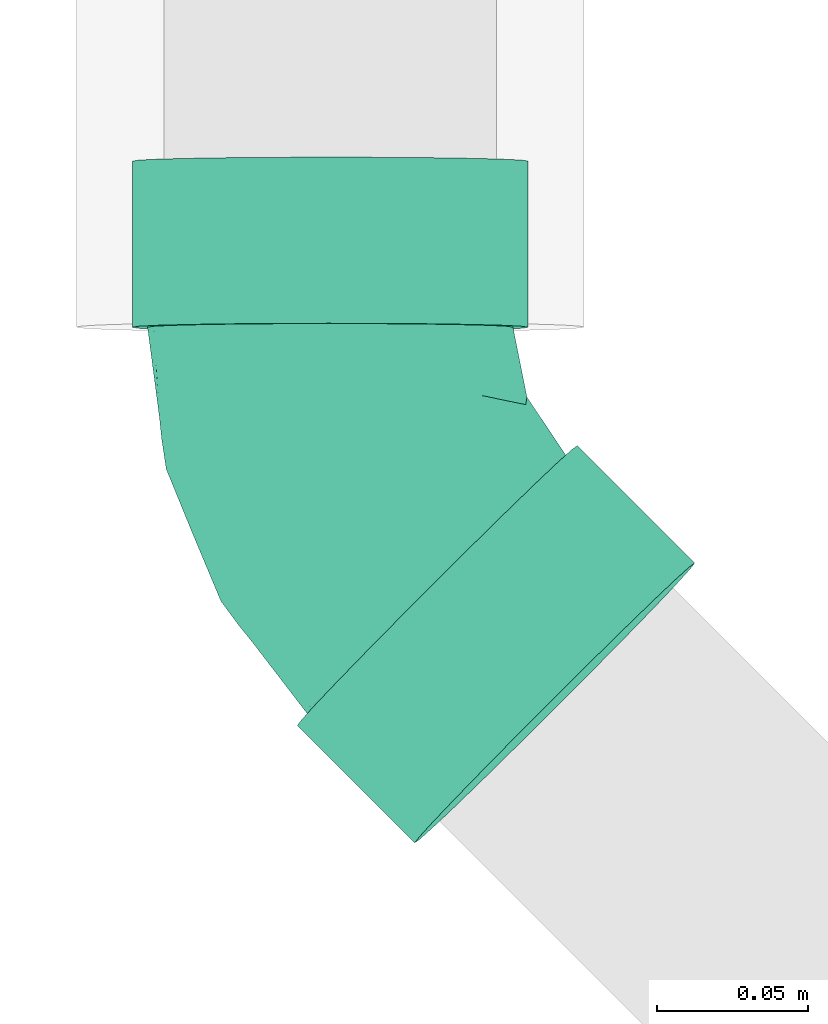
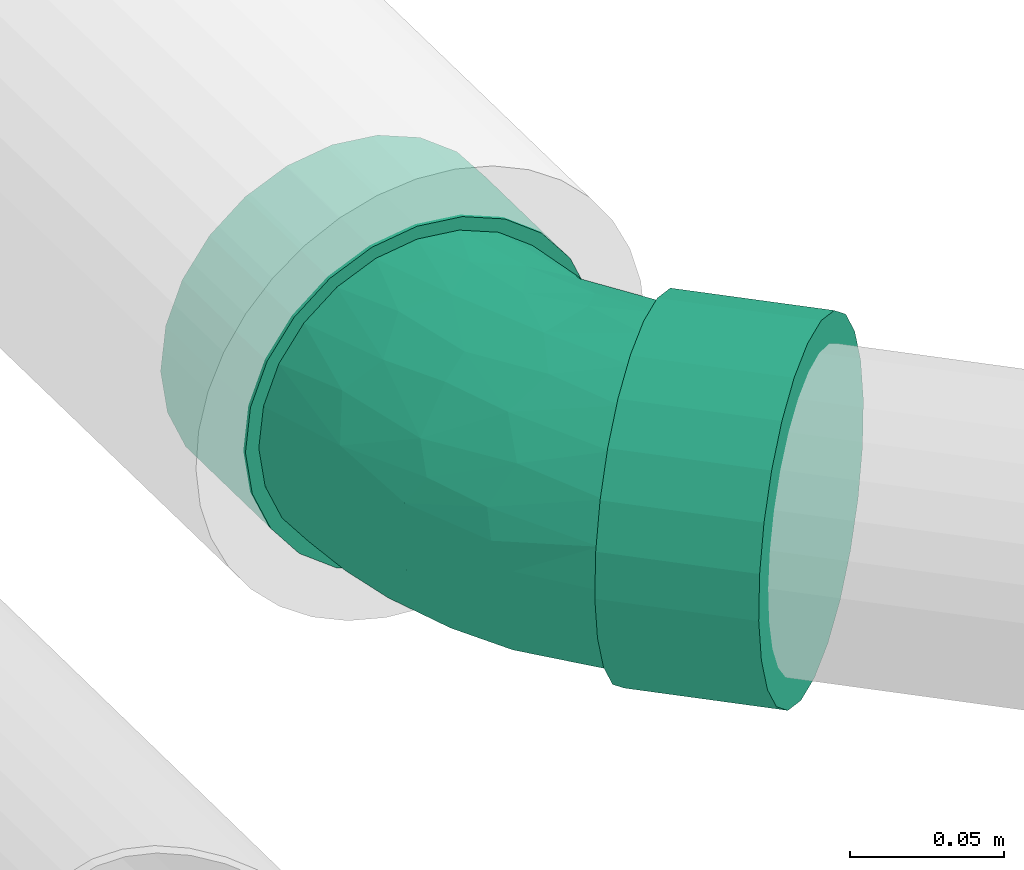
# One storey, part 58 of 83: 1 flow fitting.
"""IFC2X3 building model written with IfcOpenShell, lengths in millimetres."""

import ifcopenshell
import ifcopenshell.guid

model = None  # the IFC model being written
_history = None  # IfcOwnerHistory: only IFC2X3 demands one
_inside = {}  # id of a spatial element -> (the spatial element, [elements in it])
_under = {}  # id of a project, library or spatial element -> (it, [spatial elements below it])
_declared = {}  # id of a project -> (the project, [libraries it declares])
_typed = {}  # id of a type object -> (the type object, [elements of that type])
_made_of = {}  # id of a material, layer set ... -> (it, [elements and type objects made of it])


def new_model(schema):
    """Start an empty IFC model of exactly this schema.

    Asked for "IFC4X3", IfcOpenShell would pick the latest addendum, in which some entities
    have other attributes; the version numbers below select the first issue.
    IFC2X3 requires an IfcOwnerHistory on every rooted entity: one is made here for all.
    """
    global model, _history
    if schema == "IFC4X3":
        model = ifcopenshell.file(schema_version=(4, 3, 0, 0))
    else:
        model = ifcopenshell.file(schema=schema)
    _inside.clear()
    _under.clear()
    _declared.clear()
    _typed.clear()
    _made_of.clear()
    _history = None
    if model.schema == "IFC2X3":
        org = make("IfcOrganization", Name="unknown")
        user = make(
            "IfcPersonAndOrganization",
            ThePerson=make("IfcPerson", FamilyName="unknown"),
            TheOrganization=org,
        )
        app = make(
            "IfcApplication",
            ApplicationDeveloper=org,
            Version="unknown",
            ApplicationFullName="unknown",
            ApplicationIdentifier="unknown",
        )
        _history = make(
            "IfcOwnerHistory",
            OwningUser=user,
            OwningApplication=app,
            ChangeAction="ADDED",
            CreationDate=0,
        )
    return model


def make(cls, **values):
    """One entity of the class cls with the attributes given. An attribute that is None is left unset."""
    return model.create_entity(
        cls, **{name: value for name, value in values.items() if value is not None}
    )


def entity(cls, *values):
    """Any entity or typed value of the class cls, its attributes in the order of the schema. None: left unset."""
    e = model.create_entity(cls)
    for i, value in enumerate(values):
        if value is not None:
            e[i] = value
    return e


def rooted(cls, **values):
    """An entity with a GlobalId (a new one), such as an element, a storey or a relation."""
    return make(cls, GlobalId=ifcopenshell.guid.new(), OwnerHistory=_history, **values)


def si_unit(unit_type, name, prefix=None):
    """IfcSIUnit, for example si_unit("LENGTHUNIT", "METRE", prefix="MILLI")."""
    return make("IfcSIUnit", UnitType=unit_type, Prefix=prefix, Name=name)


def converted_unit(unit_type, name, factor, base, dimensions=None, offset=None):
    """IfcConversionBasedUnit, such as the inch: factor (a typed value) times the base unit."""
    return make(
        "IfcConversionBasedUnit"
        if offset is None
        else "IfcConversionBasedUnitWithOffset",
        ConversionOffset=offset,
        Dimensions=None
        if dimensions is None
        else entity("IfcDimensionalExponents", *dimensions),
        UnitType=unit_type,
        Name=name,
        ConversionFactor=make(
            "IfcMeasureWithUnit", ValueComponent=factor, UnitComponent=base
        ),
    )


def derived_unit(unit_type, elements):
    """IfcDerivedUnit: a product of units, each with its exponent."""
    return make(
        "IfcDerivedUnit",
        Elements=[
            make("IfcDerivedUnitElement", Unit=unit, Exponent=power)
            for unit, power in elements
        ],
        UnitType=unit_type,
    )


def assignment(units):
    """IfcUnitAssignment: the units of a project."""
    return None if units is None else make("IfcUnitAssignment", Units=units)


def point(xyz):
    """IfcCartesianPoint."""
    return None if xyz is None else make("IfcCartesianPoint", Coordinates=xyz)


def direction(xyz):
    """IfcDirection."""
    return None if xyz is None else make("IfcDirection", DirectionRatios=xyz)


def frame(location, z_axis=None, x_axis=None):
    """IfcAxis2Placement3D, a coordinate frame: its origin and axes. An axis left out is left unset."""
    return make(
        "IfcAxis2Placement3D",
        Location=point(location),
        Axis=direction(z_axis),
        RefDirection=direction(x_axis),
    )


def origin_with_axes():
    """The frame at (0, 0, 0) with the z axis (0, 0, 1) and the x axis (1, 0, 0) written out."""
    return frame((0.0, 0.0, 0.0), z_axis=(0.0, 0.0, 1.0), x_axis=(1.0, 0.0, 0.0))


def place(relative_to, where):
    """IfcLocalPlacement: puts the frame where relative to a parent placement (None: the world)."""
    return make(
        "IfcLocalPlacement", PlacementRelTo=relative_to, RelativePlacement=where
    )


def context(
    kind, dimensions, precision=None, world=None, true_north=None, identifier=None
):
    """IfcGeometricRepresentationContext, for example the 3D "Model" context."""
    return make(
        "IfcGeometricRepresentationContext",
        ContextIdentifier=identifier,
        ContextType=kind,
        CoordinateSpaceDimension=dimensions,
        Precision=precision,
        WorldCoordinateSystem=world,
        TrueNorth=true_north,
    )


def subcontext(parent, identifier, kind, view, scale=None):
    """IfcGeometricRepresentationSubContext, for example "Body" below "Model"."""
    return make(
        "IfcGeometricRepresentationSubContext",
        ContextIdentifier=identifier,
        ContextType=kind,
        ParentContext=parent,
        TargetScale=scale,
        TargetView=view,
    )


def project(units=None, contexts=None):
    """IfcProject with its units and contexts."""
    return rooted(
        "IfcProject",
        Name="project",
        RepresentationContexts=contexts,
        UnitsInContext=assignment(units),
    )


def spatial(cls, under=None, at=None, **own):
    """A site, building, storey or space (cls), placed at a placement, below another one or the project."""
    s = rooted(cls, ObjectPlacement=at, **own)
    if under is not None:
        _under.setdefault(under.id(), (under, []))[1].append(s)
    return s


def faces_of(points, faces, orient=None, outer=None):
    """IfcFace entities. A face is a list of loops; a loop is a list of indices into points, from 0.

    orient and outer hold one flag for each loop. By default every Orientation is true, the
    first loop of a face is its IfcFaceOuterBound and the others are IfcFaceBound.
    """
    made = []
    for i, loops in enumerate(faces):
        bounds = []
        for j, loop in enumerate(loops):
            is_outer = j == 0 if outer is None else outer[i][j]
            bounds.append(
                make(
                    "IfcFaceOuterBound" if is_outer else "IfcFaceBound",
                    Bound=make("IfcPolyLoop", Polygon=[points[k] for k in loop]),
                    Orientation=True if orient is None else orient[i][j],
                )
            )
        made.append(make("IfcFace", Bounds=bounds))
    return made


def open_shell(faces, orient=None, outer=None):
    """The faces of one IfcOpenShell. surface_model builds it on its shared points."""
    return ("IfcOpenShell", faces, orient, outer)


def surface_model(cls, points, shells):
    """IfcFaceBasedSurfaceModel or IfcShellBasedSurfaceModel (cls): surfaces that need not close."""
    shared = [point(p) for p in points]
    made = [make(c, CfsFaces=faces_of(shared, fs, o, b)) for c, fs, o, b in shells]
    if cls == "IfcFaceBasedSurfaceModel":
        return make(cls, FbsmFaces=made)
    return make(cls, SbsmBoundary=made)


def shape(context_of_items, identifier, shape_type, items):
    """IfcShapeRepresentation: the items that make up one representation, for example the "Body"."""
    return make(
        "IfcShapeRepresentation",
        ContextOfItems=context_of_items,
        RepresentationIdentifier=identifier,
        RepresentationType=shape_type,
        Items=items,
    )


def source(mapping_origin, context_of_items, identifier, shape_type, items):
    """IfcRepresentationMap: a shape defined once, which mapped items show again and again."""
    return make(
        "IfcRepresentationMap",
        MappingOrigin=mapping_origin,
        MappedRepresentation=shape(context_of_items, identifier, shape_type, items),
    )


def transform(
    local_origin,
    x_axis=None,
    y_axis=None,
    z_axis=None,
    scale=None,
    scale2=None,
    scale3=None,
    uniform=True,
):
    """IfcCartesianTransformationOperator3D, or its non-uniform kind. x_axis, y_axis, z_axis: its Axis1, 2, 3."""
    if uniform:
        return make(
            "IfcCartesianTransformationOperator3D",
            Axis1=direction(x_axis),
            Axis2=direction(y_axis),
            LocalOrigin=point(local_origin),
            Scale=scale,
            Axis3=direction(z_axis),
        )
    return make(
        "IfcCartesianTransformationOperator3DnonUniform",
        Axis1=direction(x_axis),
        Axis2=direction(y_axis),
        LocalOrigin=point(local_origin),
        Scale=scale,
        Axis3=direction(z_axis),
        Scale2=scale2,
        Scale3=scale3,
    )


def mapped(mapping_source, mapping_target):
    """IfcMappedItem: shows the shape of a source again, moved by a transform."""
    return make(
        "IfcMappedItem", MappingSource=mapping_source, MappingTarget=mapping_target
    )


def made_of(thing, what):
    """Note that an element or type object is made of a material, layer set ...; save() writes the relation."""
    if what is not None:
        _made_of.setdefault(what.id(), (what, []))[1].append(thing)
    return thing


def type_object(cls, material=None, **own):
    """A type object (cls), such as IfcWallType, which elements share."""
    return made_of(rooted(cls, **own), material)


def element(
    cls,
    number,
    at=None,
    inside=None,
    cuts=None,
    type_object=None,
    material=None,
    context=None,
    identifier="Body",
    shape_type=None,
    held_by="IfcProductDefinitionShape",
    body=None,
    shapes=None,
    **own,
):
    """One element of the class cls, such as IfcWall. Its Tag is "e" and its number.

    at: its placement. inside: the storey or other place that contains it. cuts: it is an
    opening in that element (IfcRelVoidsElement). A single representation is given by context,
    identifier, shape_type and body (its items); several are given by shapes. held_by: the class
    of the entity that holds the representations. save() writes the other relations.
    """
    e = rooted(cls, Tag="e%d" % number, ObjectPlacement=at, **own)
    if body is not None:
        shapes = [shape(context, identifier, shape_type, body)]
    if shapes is not None:
        e.Representation = make(held_by, Representations=shapes)
    if inside is not None:
        _inside.setdefault(inside.id(), (inside, []))[1].append(e)
    if cuts is not None:
        rooted(
            "IfcRelVoidsElement", RelatingBuildingElement=cuts, RelatedOpeningElement=e
        )
    if type_object is not None:
        _typed.setdefault(type_object.id(), (type_object, []))[1].append(e)
    return made_of(e, material)


def aggregate(whole, parts):
    """IfcRelAggregates: a whole, such as a stair, and the parts it consists of."""
    return rooted("IfcRelAggregates", RelatingObject=whole, RelatedObjects=parts)


def save(model, path):
    """Write the relations noted so far, then the file.

    IfcRelAggregates (storeys below a building ...), IfcRelContainedInSpatialStructure (elements
    in a storey), IfcRelDefinesByType, IfcRelAssociatesMaterial and IfcRelDeclares: one each for
    every whole, place, type object, material and project.
    """
    for whole, parts in _under.values():
        aggregate(whole, parts)
    for where, things in _inside.values():
        rooted(
            "IfcRelContainedInSpatialStructure",
            RelatedElements=things,
            RelatingStructure=where,
        )
    for kind, things in _typed.values():
        rooted("IfcRelDefinesByType", RelatedObjects=things, RelatingType=kind)
    for what, things in _made_of.values():
        rooted("IfcRelAssociatesMaterial", RelatedObjects=things, RelatingMaterial=what)
    for by, libraries in _declared.values():
        rooted("IfcRelDeclares", RelatingContext=by, RelatedDefinitions=libraries)
    model.write(path)


model = new_model("IFC2X3")

# Units and contexts
model_context = context("Model", 3, precision=0.01, world=frame((0.0, 4.29681676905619e-09, 0.0)), true_north=direction((4.01073788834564e-13, 1.0)))
plan_context = context("Plan", 3, precision=0.01, world=frame((0.0, 4.29681676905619e-09, 0.0)), true_north=direction((4.01073788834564e-13, 1.0)))
body_context = subcontext(model_context, "Body", "Model", "MODEL_VIEW")
ifc_project = project(units=[converted_unit("PLANEANGLEUNIT", "DEGREE", entity("IfcPositiveLengthMeasure", 0.0174532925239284), si_unit("PLANEANGLEUNIT", "RADIAN"), dimensions=[0, 0, 0, 0, 0, 0, 0]), si_unit("AREAUNIT", "SQUARE_METRE"), si_unit("LENGTHUNIT", "METRE", prefix="MILLI"), si_unit("MASSUNIT", "GRAM", prefix="KILO"), si_unit("POWERUNIT", "WATT"), si_unit("PRESSUREUNIT", "PASCAL"), si_unit("FORCEUNIT", "NEWTON", prefix="KILO"), si_unit("ELECTRICVOLTAGEUNIT", "VOLT"), si_unit("ELECTRICCURRENTUNIT", "AMPERE"), si_unit("THERMODYNAMICTEMPERATUREUNIT", "DEGREE_CELSIUS"), si_unit("TIMEUNIT", "SECOND"), si_unit("VOLUMEUNIT", "CUBIC_METRE"), derived_unit("LINEARVELOCITYUNIT", [(si_unit("LENGTHUNIT", "METRE"), 1), (si_unit("TIMEUNIT", "SECOND"), -1)]), derived_unit("VOLUMETRICFLOWRATEUNIT", [(si_unit("VOLUMEUNIT", "CUBIC_METRE"), 1), (si_unit("TIMEUNIT", "SECOND"), -1)]), derived_unit("THERMALTRANSMITTANCEUNIT", [(si_unit("POWERUNIT", "WATT"), 1), (si_unit("THERMODYNAMICTEMPERATUREUNIT", "KELVIN"), -1), (si_unit("AREAUNIT", "SQUARE_METRE"), -1)]), derived_unit("SOUNDPRESSUREUNIT", [(si_unit("PRESSUREUNIT", "PASCAL"), 1)])], contexts=[model_context, plan_context])

# Site, building, storey
site_placement = place(None, frame((0.0, -4.29681676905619e-09, 0.0), z_axis=(0.0, 0.0, 1.0), x_axis=(1.0, 0.0, 0.0)))
site = spatial("IfcSite", under=ifc_project, at=site_placement, Name="ENGM", CompositionType="ELEMENT")
building_placement = place(site_placement, frame((0.0, 4.29681676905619e-09, 0.0), z_axis=(0.0, 0.0, 1.0), x_axis=(1.0, 0.0, 0.0)))
building = spatial("IfcBuilding", under=site, at=building_placement, Name="TI", CompositionType="ELEMENT")
storey_placement = place(building_placement, frame((0.0, 0.0, 204000.0), z_axis=(0.0, 0.0, 1.0), x_axis=(1.0, 0.0, 0.0)))
storey = spatial("IfcBuildingStorey", under=building, at=storey_placement, Name="Nivå D", CompositionType="ELEMENT", Elevation=204000.0)

# Flow fitting
pipe_fitting_type = type_object("IfcPipeFittingType", Name="magi_sewer_bend_001", PredefinedType="BEND")
shared_shape = source(origin_with_axes(), body_context, "Body", "SurfaceModel", [
    surface_model("IfcShellBasedSurfaceModel", [(-105.1081, -16.95265, -63.26814), (-105.1081, -32.75, -56.72466), (-105.1081, -46.3155, -46.3155), (-105.1081, -63.26814, -16.95265), (-105.1081, 56.72466, -32.75), (-105.1081, -56.72466, -32.75), (-105.1081, -65.5, 0.0), (-105.1081, 16.95265, -63.26814), (-105.1081, 0.0, -65.5), (-105.1081, 32.75, -56.72466), (-105.1081, 46.3155, -46.3155), (-105.1081, 63.26814, -16.95265), (-105.1081, -63.26814, 16.95265), (-105.1081, -56.72466, 32.75), (-105.1081, -46.3155, 46.3155), (-105.1081, 63.26814, 16.95265), (-105.1081, -16.95265, 63.26814), (-105.1081, 0.0, 65.5), (-105.1081, -32.75, 56.72466), (-105.1081, 46.3155, 46.3155), (-105.1081, 56.72466, 32.75), (-105.1081, 65.5, 0.0), (-105.1081, 16.95265, 63.26814), (-105.1081, 32.75, 56.72466), (-50.1081, -16.95265, 63.26814), (-50.1081, 16.95265, 63.26814), (-50.1081, 0.0, 65.5), (-50.1081, -46.3155, 46.3155), (-50.1081, -32.75, 56.72466), (-50.1081, -56.72466, 32.75), (-50.1081, -63.26814, 16.95265), (-50.1081, 46.3155, 46.3155), (-50.1081, 32.75, 56.72466), (-50.1081, 63.26814, 16.95265), (-50.1081, 56.72466, 32.75), (-50.1081, 63.26814, -16.95265), (-50.1081, 65.5, 0.0), (-50.1081, -63.26814, -16.95265), (-50.1081, 32.75, -56.72466), (-50.1081, -65.5, 0.0), (-50.1081, -16.95265, -63.26814), (-50.1081, -56.72466, -32.75), (-50.1081, -46.3155, -46.3155), (-50.1081, -32.75, -56.72466), (-50.1081, 0.0, -65.5), (-50.1081, 46.3155, -46.3155), (-50.1081, 56.72466, -32.75), (-50.1081, 16.95265, -63.26814), (29.60504, 119.05508, 16.95265), (34.23121, 114.42738, 32.75), (41.59038, 107.06577, 46.3155), (86.3203, 62.32102, 63.26814), (97.48887, 51.14876, 56.72466), (107.07954, 41.55492, 46.3155), (86.3203, 62.32102, -63.26814), (107.07954, 41.55492, -46.3155), (97.48887, 51.14876, -56.72466), (68.18222, 2.67049, 46.3155), (58.59156, 12.26433, 56.72466), (47.42299, 23.43659, 63.26814), (68.18222, 2.67049, -46.3155), (47.42299, 23.43659, -63.26814), (58.59156, 12.26433, -56.72466), (2.69307, 68.18134, 46.3155), (-4.6661, 75.54295, 32.75), (-9.29227, 80.17065, 16.95265), (12.28374, 58.58749, -56.72466), (-4.6661, 75.54295, -32.75), (2.69307, 68.18134, -46.3155), (23.4523, 47.41522, -63.26814), (35.43765, 35.42591, -65.5), (-9.29227, 80.17065, -16.95265), (-10.87018, 81.74907, 0.0), (23.4523, 47.41522, 63.26814), (35.43765, 35.42591, 65.5), (62.34961, 86.29966, -63.26814), (51.18105, 97.47192, -56.72466), (29.60504, 119.05508, -16.95265), (41.59038, 107.06577, -46.3155), (74.33496, 74.31034, -65.5), (34.23121, 114.42738, -32.75), (28.02714, 120.63351, 0.0), (51.18105, 97.47192, 56.72466), (12.28374, 58.58749, 56.72466), (62.34961, 86.29966, 63.26814), (74.33496, 74.31034, 65.5), (75.5414, -4.69113, 32.75), (114.43871, 34.1933, 32.75), (120.64278, 27.98717, 0.0), (119.06488, 29.5656, 16.95265), (80.16757, -9.31883, 16.95265), (81.74546, -10.89726, 0.0), (119.06488, 29.5656, -16.95265), (80.16757, -9.31883, -16.95265), (75.5414, -4.69113, -32.75), (114.43871, 34.1933, -32.75), (-50.1081, 15.65855, -58.43851), (-50.1081, 0.0, -60.5), (-50.1081, 58.43851, -15.65855), (-50.1081, 30.25, -52.39454), (-50.1081, 52.39454, -30.25), (-50.1081, 42.77996, -42.77996), (-50.1081, 52.39454, 30.25), (-50.1081, 58.43851, 15.65855), (-50.1081, 42.77996, 42.77996), (-50.1081, 30.25, 52.39454), (-50.1081, -15.65855, 58.43851), (-50.1081, 0.0, 60.5), (-50.1081, -30.25, 52.39454), (5.19266, 65.68092, -42.77996), (-1.60475, 72.48058, -30.25), (-5.87778, 76.75502, -15.65855), (14.05121, 56.81943, -52.39454), (14.05121, 56.81943, 52.39454), (-1.60475, 72.48058, 30.25), (5.19266, 65.68092, 42.77996), (65.68264, 5.1709, 42.77996), (46.50808, 24.35181, 58.43851), (56.82408, 14.03239, 52.39454), (35.43765, 35.42591, 60.5), (15.40727, -37.20516, 33.71616), (-13.37763, -34.19376, 46.68461), (-19.52539, -46.27097, 35.42542), (-20.20232, -56.56367, 0.0), (-3.14212, -54.31813, 0.0), (-12.90624, -55.73838, 10.33181), (-50.1081, -42.77996, 42.77996), (72.48004, -1.62876, 30.25), (46.52192, -18.91968, 35.42542), (-23.96734, -22.18542, 55.29418), (6.21198, -15.00057, 54.53221), (24.36721, 46.50001, 58.43851), (1.7999, 36.36757, 56.46783), (10.93464, 28.63174, 59.6196), (-18.04815, -5.82533, 59.69858), (-5.75196, 13.88971, 60.2873), (-30.30698, 8.38321, 60.13278), (-17.1803, 41.48663, 49.39195), (-26.66913, 50.73825, 38.17926), (32.63514, 1.2546, 55.29418), (-50.1081, 15.65855, 58.43851), (-23.23617, 25.17565, 56.5588), (-50.1081, -58.43851, 15.65855), (23.34094, -39.60417, 23.84545), (-10.84174, -52.34265, 21.01086), (18.78146, -45.35308, 13.15226), (-50.1081, -52.39454, 30.25), (-24.9167, 60.16833, 24.8553), (76.75307, -5.9032, 15.65855), (48.53406, -30.29493, 10.33181), (54.2775, -25.72035, 0.0), (-24.22946, 64.82374, 12.71138), (-50.1081, 60.5, 0.0), (44.67325, -29.35298, 21.01085), (16.88253, 8.64005, 59.69858), (33.63561, -14.7248, 46.68461), (-5.87778, 76.75502, 15.65855), (-26.96038, 65.10337, 0.0), (-7.33523, 78.21296, 0.0), (10.15312, -24.51753, 48.24811), (-50.1081, -60.5, 0.0), (18.74121, -45.25588, 0.0), (40.62454, -36.19363, 0.0), (78.21052, -7.36114, 0.0), (-50.1081, -15.65855, -58.43851), (-18.04815, -5.82533, -59.69858), (-12.90624, -55.73838, -10.33181), (18.78146, -45.35308, -13.15226), (35.43765, 35.42591, -60.5), (46.50808, 24.35181, -58.43851), (16.88253, 8.64005, -59.69858), (-26.98443, 24.44751, -56.46783), (-27.97558, 12.51837, -59.6196), (-17.01038, 54.7381, -38.17926), (56.82408, 14.03239, -52.39454), (65.68264, 5.1709, -42.77996), (33.63561, -14.7248, -46.68461), (-24.9167, 60.16833, -24.8553), (72.48004, -1.62876, -30.25), (76.75307, -5.9032, -15.65855), (44.67325, -29.35298, -21.01085), (-28.69406, 62.97487, -12.71138), (24.36721, 46.50001, -58.43851), (-1.36575, 34.23256, -56.5588), (-50.1081, -58.43851, -15.65855), (-10.84174, -52.34265, -21.01085), (-17.1803, 41.48663, -49.39196), (-50.1081, -52.39454, -30.25), (-19.52539, -46.27097, -35.42542), (-50.1081, -42.77996, -42.77996), (-13.37763, -34.19376, -46.68461), (-50.1081, -30.25, -52.39454), (-23.96734, -22.18542, -55.29418), (32.63514, 1.2546, -55.29418), (6.21198, -15.00057, -54.53221), (48.53406, -30.29493, -10.33181), (15.50697, 27.35553, -60.13278), (11.49247, -44.51083, -23.84545), (46.52192, -18.91968, -35.42542), (-5.75196, 13.88971, -60.2873), (10.15312, -24.51753, -48.24811), (15.40727, -37.20517, -33.71616)], [open_shell([[[0, 1, 2]], [[0, 2, 3]], [[0, 3, 4]], [[3, 2, 5]], [[4, 3, 6]], [[0, 7, 8]], [[0, 9, 7]], [[10, 9, 0]], [[0, 4, 10]], [[6, 11, 4]], [[6, 12, 11]], [[12, 13, 14]], [[11, 14, 15]], [[16, 17, 14]], [[16, 14, 18]], [[15, 14, 17]], [[15, 19, 20]], [[21, 11, 15]], [[19, 22, 23]], [[22, 19, 15]], [[17, 22, 15]], [[11, 12, 14]], [[24, 25, 26]], [[27, 24, 28]], [[27, 29, 30]], [[24, 27, 25]], [[30, 25, 27]], [[25, 31, 32]], [[31, 25, 33]], [[31, 33, 34]], [[25, 30, 33]], [[33, 35, 36]], [[33, 30, 35]], [[37, 38, 39]], [[40, 37, 41]], [[42, 43, 40]], [[42, 40, 41]], [[44, 37, 40]], [[39, 45, 46]], [[46, 35, 39]], [[38, 44, 47]], [[38, 45, 39]], [[38, 37, 44]], [[39, 35, 30]], [[35, 11, 36]], [[46, 4, 35]], [[47, 44, 7]], [[45, 10, 46]], [[35, 4, 11]], [[11, 21, 36]], [[9, 38, 7]], [[9, 10, 45]], [[38, 47, 7]], [[10, 4, 46]], [[45, 38, 9]], [[44, 8, 7]], [[0, 40, 43]], [[42, 1, 43]], [[5, 41, 37]], [[42, 41, 2]], [[3, 37, 39]], [[40, 0, 8]], [[43, 1, 0]], [[42, 2, 1]], [[41, 5, 2]], [[3, 5, 37]], [[39, 6, 3]], [[40, 8, 44]], [[30, 12, 39]], [[29, 13, 30]], [[28, 18, 27]], [[27, 14, 29]], [[30, 13, 12]], [[12, 6, 39]], [[17, 16, 24]], [[16, 18, 28]], [[14, 27, 18]], [[14, 13, 29]], [[24, 16, 28]], [[24, 26, 17]], [[22, 25, 32]], [[31, 23, 32]], [[20, 34, 33]], [[31, 34, 19]], [[15, 33, 36]], [[25, 22, 17]], [[32, 23, 22]], [[31, 19, 23]], [[34, 20, 19]], [[15, 20, 33]], [[36, 21, 15]], [[25, 17, 26]], [[48, 49, 50]], [[51, 52, 53]], [[54, 55, 56]], [[57, 58, 59]], [[60, 61, 62]], [[63, 64, 65]], [[66, 67, 68]], [[69, 70, 66]], [[65, 71, 67]], [[67, 66, 65]], [[71, 65, 72]], [[73, 59, 74]], [[69, 75, 70]], [[66, 76, 69]], [[71, 72, 77]], [[68, 78, 66]], [[69, 76, 75]], [[75, 79, 70]], [[80, 67, 77]], [[80, 78, 68]], [[67, 71, 77]], [[78, 76, 66]], [[68, 67, 80]], [[72, 81, 77]], [[48, 65, 64]], [[63, 49, 64]], [[82, 83, 73]], [[63, 83, 50]], [[84, 73, 74]], [[65, 48, 81]], [[64, 49, 48]], [[63, 50, 49]], [[83, 82, 50]], [[84, 82, 73]], [[74, 85, 84]], [[65, 81, 72]], [[59, 51, 74]], [[58, 52, 59]], [[86, 87, 57]], [[57, 53, 58]], [[59, 52, 51]], [[51, 85, 74]], [[88, 89, 90]], [[89, 87, 86]], [[53, 57, 87]], [[53, 52, 58]], [[90, 89, 86]], [[90, 91, 88]], [[92, 93, 94]], [[60, 95, 94]], [[56, 62, 61]], [[60, 62, 55]], [[54, 61, 70]], [[93, 92, 88]], [[94, 95, 92]], [[60, 55, 95]], [[62, 56, 55]], [[54, 56, 61]], [[70, 79, 54]], [[93, 88, 91]], [[96, 97, 98]], [[99, 96, 98]], [[98, 100, 101]], [[99, 98, 101]], [[102, 103, 104]], [[104, 103, 105]], [[106, 107, 108]], [[109, 110, 111]], [[109, 111, 112]], [[113, 114, 115]], [[116, 117, 118]], [[117, 116, 119]], [[120, 121, 122]], [[123, 124, 125]], [[108, 126, 121]], [[127, 116, 128]], [[129, 121, 130]], [[122, 121, 126]], [[131, 132, 133]], [[106, 108, 129]], [[134, 135, 136]], [[107, 106, 134]], [[104, 137, 138]], [[118, 117, 139]], [[136, 140, 107]], [[105, 141, 137]], [[142, 123, 125]], [[113, 115, 137]], [[143, 144, 145]], [[137, 104, 105]], [[126, 146, 122]], [[102, 138, 147]], [[103, 102, 147]], [[148, 149, 150]], [[151, 152, 103]], [[153, 143, 145]], [[144, 125, 145]], [[105, 140, 141]], [[119, 133, 154]], [[116, 118, 155]], [[114, 156, 147]], [[154, 117, 119]], [[120, 122, 144]], [[116, 155, 128]], [[135, 133, 132]], [[155, 118, 139]], [[146, 144, 122]], [[149, 148, 153]], [[120, 128, 155]], [[136, 141, 140]], [[120, 143, 128]], [[103, 147, 151]], [[146, 142, 144]], [[157, 151, 158]], [[121, 159, 130]], [[156, 151, 147]], [[130, 154, 134]], [[114, 147, 138]], [[130, 139, 154]], [[114, 138, 115]], [[135, 134, 154]], [[131, 113, 132]], [[132, 137, 141]], [[129, 134, 106]], [[102, 104, 138]], [[153, 148, 127]], [[153, 127, 128]], [[159, 120, 155]], [[115, 138, 137]], [[137, 132, 113]], [[135, 132, 141]], [[121, 129, 108]], [[134, 129, 130]], [[154, 139, 117]], [[155, 139, 130]], [[142, 160, 123]], [[145, 124, 161]], [[142, 125, 144]], [[124, 145, 125]], [[149, 145, 162]], [[150, 149, 162]], [[150, 163, 148]], [[145, 149, 153]], [[154, 133, 135]], [[119, 131, 133]], [[134, 136, 107]], [[141, 136, 135]], [[120, 159, 121]], [[155, 130, 159]], [[158, 151, 156]], [[151, 157, 152]], [[128, 143, 153]], [[144, 143, 120]], [[162, 145, 161]], [[164, 97, 165]], [[124, 166, 167]], [[168, 169, 170]], [[171, 172, 96]], [[100, 173, 101]], [[174, 175, 176]], [[177, 173, 100]], [[178, 179, 180]], [[98, 181, 177]], [[112, 182, 183]], [[184, 166, 123]], [[99, 171, 96]], [[166, 184, 185]], [[109, 186, 173]], [[185, 187, 188]], [[188, 189, 190]], [[189, 191, 190]], [[184, 187, 185]], [[189, 188, 187]], [[192, 191, 164]], [[193, 170, 169]], [[111, 110, 177]], [[194, 192, 165]], [[152, 157, 181]], [[158, 111, 181]], [[194, 165, 170]], [[109, 112, 186]], [[177, 100, 98]], [[110, 173, 177]], [[192, 190, 191]], [[183, 186, 112]], [[172, 165, 97]], [[186, 183, 171]], [[101, 186, 99]], [[179, 150, 195]], [[196, 182, 168]], [[193, 169, 174]], [[197, 180, 167]], [[175, 198, 176]], [[194, 193, 176]], [[175, 178, 198]], [[199, 196, 170]], [[199, 170, 165]], [[195, 150, 162]], [[196, 183, 182]], [[199, 172, 171]], [[166, 185, 167]], [[176, 200, 194]], [[178, 180, 198]], [[111, 177, 181]], [[110, 109, 173]], [[101, 173, 186]], [[186, 171, 99]], [[199, 171, 183]], [[165, 192, 164]], [[190, 192, 194]], [[176, 193, 174]], [[170, 193, 194]], [[123, 166, 124]], [[123, 160, 184]], [[197, 167, 185]], [[195, 167, 180]], [[167, 162, 161]], [[179, 163, 150]], [[167, 195, 162]], [[179, 195, 180]], [[165, 172, 199]], [[97, 96, 172]], [[170, 196, 168]], [[183, 196, 199]], [[190, 194, 200]], [[152, 181, 98]], [[181, 157, 158]], [[188, 197, 185]], [[124, 167, 161]], [[77, 78, 80]], [[77, 81, 48]], [[90, 93, 91]], [[57, 90, 86]], [[93, 60, 94]], [[60, 93, 61]], [[65, 73, 83]], [[63, 65, 83]], [[160, 98, 97]], [[191, 189, 164]], [[189, 97, 164]], [[184, 160, 187]], [[189, 187, 160]], [[189, 160, 97]], [[160, 142, 98]], [[103, 98, 142]], [[105, 103, 142]], [[140, 105, 142]], [[146, 126, 142]], [[108, 142, 126]], [[142, 108, 107]], [[107, 140, 142]], [[152, 98, 103]], [[169, 175, 174]], [[178, 163, 179]], [[131, 119, 113]], [[148, 116, 127]], [[89, 53, 87]], [[78, 75, 76]], [[55, 92, 95]], [[92, 55, 54]], [[90, 57, 93]], [[59, 93, 57]], [[93, 59, 61]], [[168, 182, 112]], [[168, 112, 111]], [[163, 178, 175]], [[48, 50, 84]], [[84, 85, 48]], [[84, 50, 82]], [[48, 85, 78]], [[77, 48, 78]], [[78, 89, 75]], [[78, 85, 51]], [[51, 53, 89]], [[89, 92, 75]], [[92, 89, 88]], [[54, 79, 75]], [[92, 54, 75]], [[78, 51, 89]], [[61, 66, 70]], [[61, 59, 73]], [[73, 65, 61]], [[61, 65, 66]], [[168, 111, 175]], [[169, 168, 175]], [[111, 163, 175]], [[111, 113, 163]], [[111, 156, 113]], [[113, 156, 114]], [[116, 163, 113]], [[163, 116, 148]], [[113, 119, 116]], [[156, 111, 158]], [[200, 201, 190]], [[201, 188, 190]], [[198, 201, 176]], [[201, 197, 188]], [[201, 198, 180]], [[201, 200, 176]], [[180, 197, 201]]])]),
])
flow_fitting_placement = place(storey_placement, frame((602382.54332, 694922.17794, 6095.97266999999), z_axis=(-0.00827799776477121, 0.0199989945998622, 0.999765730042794), x_axis=(-3.04569327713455e-08, -0.999799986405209, 0.0199996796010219)))
element("IfcFlowFitting", 1, at=flow_fitting_placement, inside=storey, type_object=pipe_fitting_type, Name="magi_sewer_bend_001", context=body_context, shape_type="MappedRepresentation", body=[
    mapped(shared_shape, transform((0.0, 0.0, 0.0), scale=1.0)),
])

save(model, "model.ifc")
